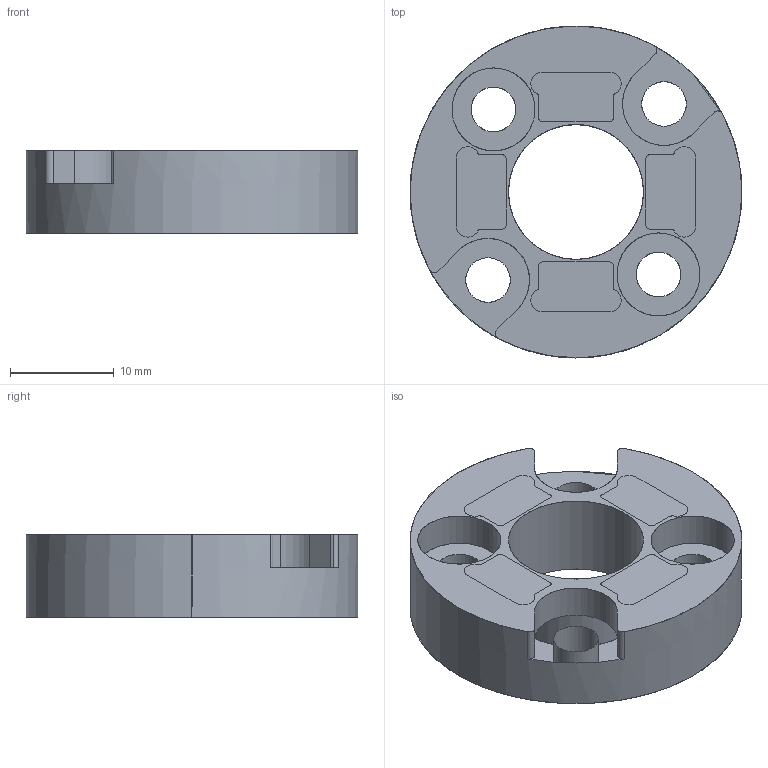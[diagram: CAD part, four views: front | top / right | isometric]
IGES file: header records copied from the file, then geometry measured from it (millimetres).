
Start section: SolidWorks IGES file using analytic representation for surfaces
Global section: file name: E:\Schlichter\3D-Daten\TM1\Z-TH1-P19.IGS; native system: SolidWorks 2017; preprocessor: SolidWorks 2017; author: thiel; date: 190701.102225; units: millimetre
Bounding box: 32 x 32 x 8 mm (x, y, z)
Surface area: 2846.3 mm2 (no closed solid volume)
Topology: 0 solids, 0 shells, 38 faces, 1108 edges, 1108 vertices
Faces by surface type: revolution 24, bspline 14
